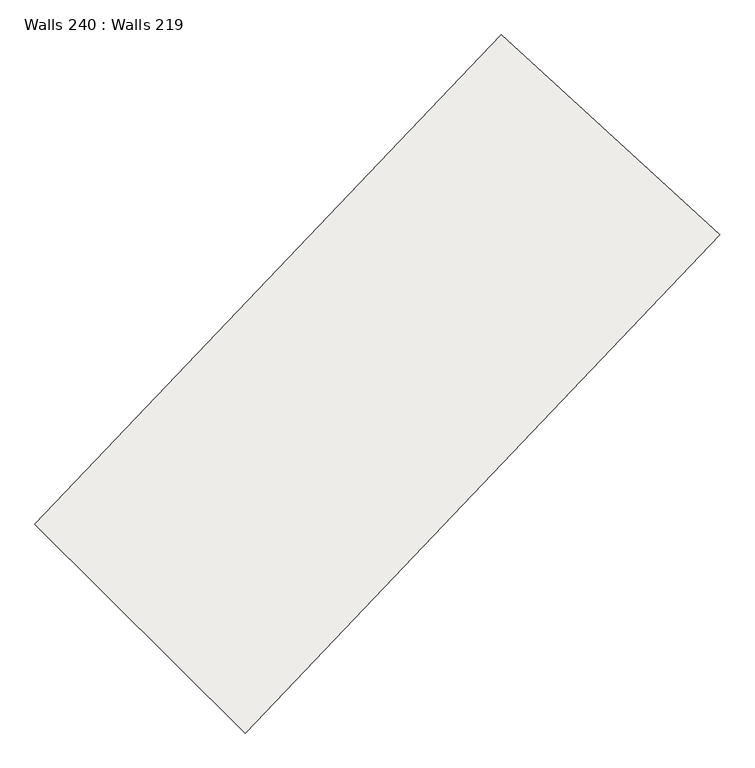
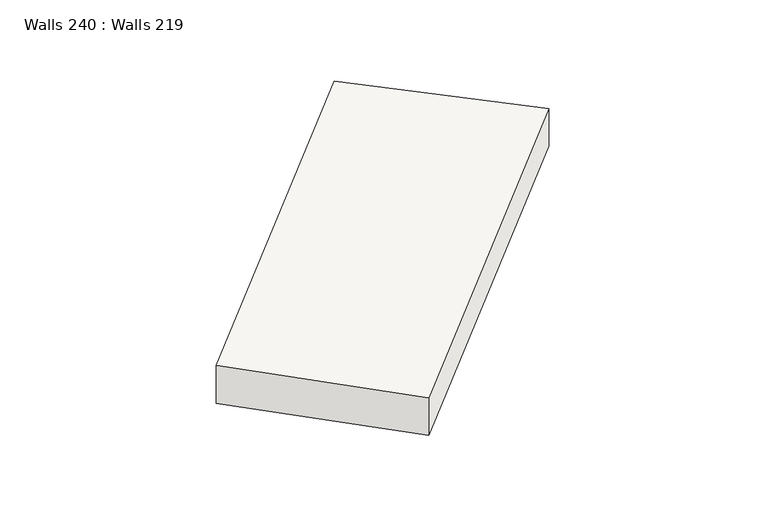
"""IFC4 building model written with IfcOpenShell, lengths in millimetres: slab geometry, Walls 240 : Walls 219."""

from ifc_helpers import new_model, si_unit, frame, origin, place, context, project, spatial, source, transform, mapped, element, save
from ifc_brep_helpers import plane_surface, spline_curve, spline_surface, advanced_brep


def walls_240_walls_219_4a9cd1ba(model_context):
    return source(origin(), model_context, "Body", "AdvancedBrep", [
        advanced_brep(
        [(376461.7417409, 246644.7135533, 645377.0), (376461.7417409, 246644.7135533, 644577.0), (379159.0620187, 243968.0620408, 644577.0), (379159.0620187, 243968.0620408, 645377.0), (382440.7706238, 252919.1143501, 645489.0), (385244.276948, 250353.8946149, 645489.0), (385244.276948, 250353.8946149, 644689.0), (382440.7706238, 252919.1143501, 644689.0)],
        [
            (0, 1),
            (1, 2),
            (2, 3),
            (3, 0),
            (4, 5),
            (5, 6),
            (6, 7),
            (7, 4),
            (4, 0, spline_curve(3, [(382440.7706238, 252919.1143501, 645489.0), (380490.395178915, 250787.565999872, 645451.666666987), (378496.840454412, 248695.527042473, 645414.333333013), (376461.7417409, 246644.7135533, 645377.0)], [4, 4], [0.0, 28.691591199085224])),
            (3, 5, spline_curve(3, [(379159.0620187, 243968.0620408, 645377.0), (381230.303572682, 246055.297461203, 645414.333333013), (383259.263327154, 248184.49050369, 645451.666666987), (385244.276948, 250353.8946149, 645489.0)], [4, 4], [0.0, 28.691591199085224])),
            (7, 1, spline_curve(3, [(382440.7706238, 252919.1143501, 644689.0), (380490.395179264, 250787.566000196, 644651.666666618), (378496.840454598, 248695.527043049, 644614.333333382), (376461.7417409, 246644.7135533, 644577.0)], [4, 4], [0.0, 28.439097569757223])),
            (6, 2, spline_curve(3, [(385244.276948, 250353.8946149, 644689.0), (383259.263327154, 248184.49050369, 644651.666666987), (381230.303572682, 246055.297461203, 644614.333333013), (379159.0620187, 243968.0620408, 644577.0)], [4, 4], [0.0, 28.691591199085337])),
        ],
        [
            plane_surface(frame((377810.4018798, 245306.3877971, 644977.0), z_axis=(-0.7043819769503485, -0.7098211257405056, 0.0), x_axis=(0.0, 0.0, 1.0))),
            plane_surface(frame((383842.5237859, 251636.5044825, 645089.0), z_axis=(0.6750578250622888, 0.7377648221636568, 0.0), x_axis=(0.0, 0.0, -1.0))),
            spline_surface(3, 3, [[(385244.276948, 250353.8946149, 645489.0), (383259.263326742, 248184.490503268, 645451.666666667), (381230.303572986, 246055.297461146, 645414.333333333), (379159.0620187, 243968.0620408, 645377.0)], [(384309.774839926, 251208.967859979, 645489.0), (382336.307277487, 249052.182335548, 645451.666666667), (380319.149200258, 246935.373988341, 645414.333333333), (378259.955259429, 244860.279211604, 645377.0)], [(383375.272731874, 252064.041105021, 645489.0), (381413.351228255, 249919.874167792, 645451.666666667), (379407.994827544, 247815.450515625, 645414.333333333), (377360.848500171, 245752.496382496, 645377.0)], [(382440.7706238, 252919.1143501, 645489.0), (380490.395179, 250787.566000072, 645451.666666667), (378496.840454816, 248695.527042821, 645414.333333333), (376461.7417409, 246644.7135533, 645377.0)]], [4, 4], [4, 4], [0.0, 12.467191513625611], [0.0, 28.691591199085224]),
            spline_surface(3, 3, [[(382440.7706238, 252919.1143501, 645489.0), (380490.395179, 250787.566000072, 645451.666666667), (378496.840454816, 248695.527042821, 645414.333333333), (376461.7417409, 246644.7135533, 645377.0)], [(382440.7706238, 252919.1143501, 645222.333333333), (380490.395179, 250787.566000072, 645185.0), (378496.840454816, 248695.527042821, 645147.666666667), (376461.7417409, 246644.7135533, 645110.333333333)], [(382440.7706238, 252919.1143501, 644955.666666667), (380490.395179, 250787.566000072, 644918.333333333), (378496.840454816, 248695.527042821, 644881.0), (376461.7417409, 246644.7135533, 644843.666666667)], [(382440.7706238, 252919.1143501, 644689.0), (380490.395179, 250787.566000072, 644651.666666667), (378496.840454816, 248695.527042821, 644614.333333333), (376461.7417409, 246644.7135533, 644577.0)]], [4, 4], [4, 4], [0.0, 2.6246719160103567], [0.0, 28.439097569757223]),
            spline_surface(3, 3, [[(382440.7706238, 252919.1143501, 644689.0), (380490.395179, 250787.566000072, 644651.666666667), (378496.840454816, 248695.527042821, 644614.333333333), (376461.7417409, 246644.7135533, 644577.0)], [(383375.272731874, 252064.041105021, 644689.0), (381413.351228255, 249919.874167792, 644651.666666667), (379407.994827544, 247815.450515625, 644614.333333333), (377360.848500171, 245752.496382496, 644577.0)], [(384309.774839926, 251208.967859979, 644689.0), (382336.307277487, 249052.182335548, 644651.666666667), (380319.149200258, 246935.373988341, 644614.333333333), (378259.955259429, 244860.279211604, 644577.0)], [(385244.276948, 250353.8946149, 644689.0), (383259.263326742, 248184.490503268, 644651.666666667), (381230.303572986, 246055.297461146, 644614.333333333), (379159.0620187, 243968.0620408, 644577.0)]], [4, 4], [4, 4], [0.0, 12.467191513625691], [0.0, 28.691591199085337]),
            spline_surface(3, 3, [[(385244.276948, 250353.8946149, 644689.0), (383259.263326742, 248184.490503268, 644651.666666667), (381230.303572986, 246055.297461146, 644614.333333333), (379159.0620187, 243968.0620408, 644577.0)], [(385244.276948, 250353.8946149, 644955.666666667), (383259.263326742, 248184.490503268, 644918.333333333), (381230.303572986, 246055.297461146, 644881.0), (379159.0620187, 243968.0620408, 644843.666666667)], [(385244.276948, 250353.8946149, 645222.333333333), (383259.263326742, 248184.490503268, 645185.0), (381230.303572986, 246055.297461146, 645147.666666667), (379159.0620187, 243968.0620408, 645110.333333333)], [(385244.276948, 250353.8946149, 645489.0), (383259.263326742, 248184.490503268, 645451.666666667), (381230.303572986, 246055.297461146, 645414.333333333), (379159.0620187, 243968.0620408, 645377.0)]], [4, 4], [4, 4], [0.0, 2.6246719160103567], [0.0, 28.94408519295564]),
        ],
        [
            (0, [[1, 2, 3, 4]]),
            (1, [[5, 6, 7, 8]]),
            (2, [[-5, 9, -4, 10]]),
            (3, [[-8, 11, -1, -9]]),
            (4, [[-7, 12, -2, -11]]),
            (5, [[-6, -10, -3, -12]]),
        ],
    ),
    ])


if __name__ == "__main__":
    model = new_model("IFC4")
    model_context = context("Model", 3, world=origin())
    ifc_project = project(units=[si_unit("LENGTHUNIT", "METRE", prefix="MILLI")], contexts=[model_context])
    site = spatial("IfcSite", under=ifc_project)
    building = spatial("IfcBuilding", under=site)
    placement = place(None, origin())
    walls_240_walls_219_shape = walls_240_walls_219_4a9cd1ba(model_context)
    element("IfcSlab", 1, ObjectType="Walls 240 : Walls 219", at=placement, inside=building, context=model_context, shape_type="MappedRepresentation", body=[
        mapped(walls_240_walls_219_shape, transform((0.0, 0.0, 0.0), x_axis=(1.0, 0.0, 0.0), y_axis=(0.0, 1.0, 0.0), z_axis=(0.0, 0.0, 1.0))),
    ])
    save(model, "model.ifc")
